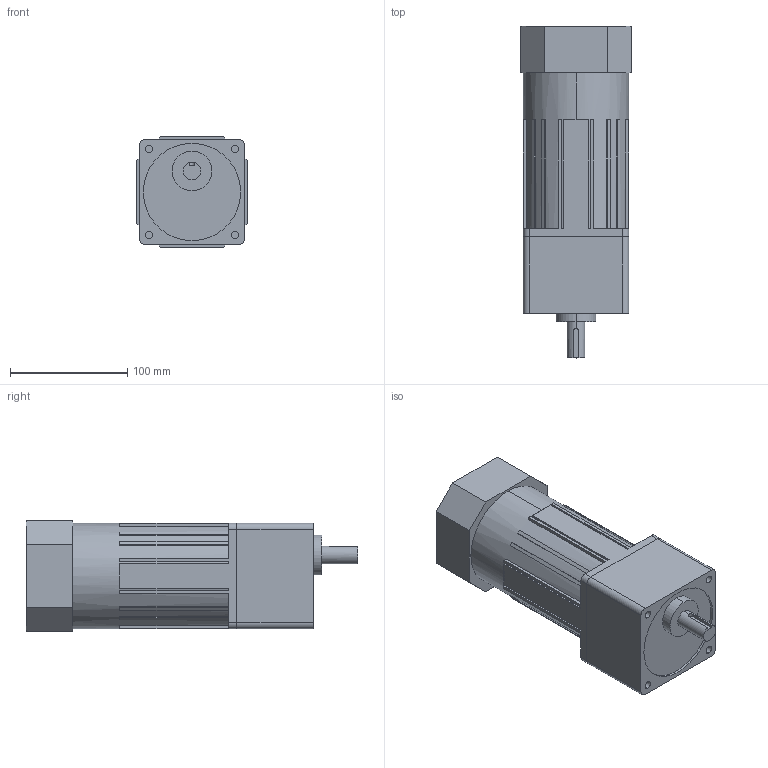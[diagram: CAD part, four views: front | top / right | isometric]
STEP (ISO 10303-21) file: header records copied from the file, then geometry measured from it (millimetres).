
FILE_DESCRIPTION (( 'STEP AP203' ), '1' );
FILE_NAME ('L9VK003B + L9R90PBHE.STEP', '2018-10-03T05:53:18', ( '' ), ( '' ), 'SwSTEP 2.0', 'SolidWorks 2017', '' );
FILE_SCHEMA (( 'CONFIG_CONTROL_DESIGN' ));
Length unit declared in the file: millimetre
Products named in the file (1): L9VK003B + L9R90PBHE
Bounding box: 94 x 283.5 x 94 mm (x, y, z)
Volume: 1763459.3 mm3; surface area: 121781.2 mm2
Topology: 2 solids, 2 shells, 148 faces, 402 edges, 266 vertices
Faces by surface type: plane 115, cylinder 33
Entity records: 4784 total; most frequent: CARTESIAN_POINT 849, DIRECTION 805, ORIENTED_EDGE 804, EDGE_CURVE 402, LINE 293, VECTOR 293, VERTEX_POINT 266, AXIS2_PLACEMENT_3D 256
